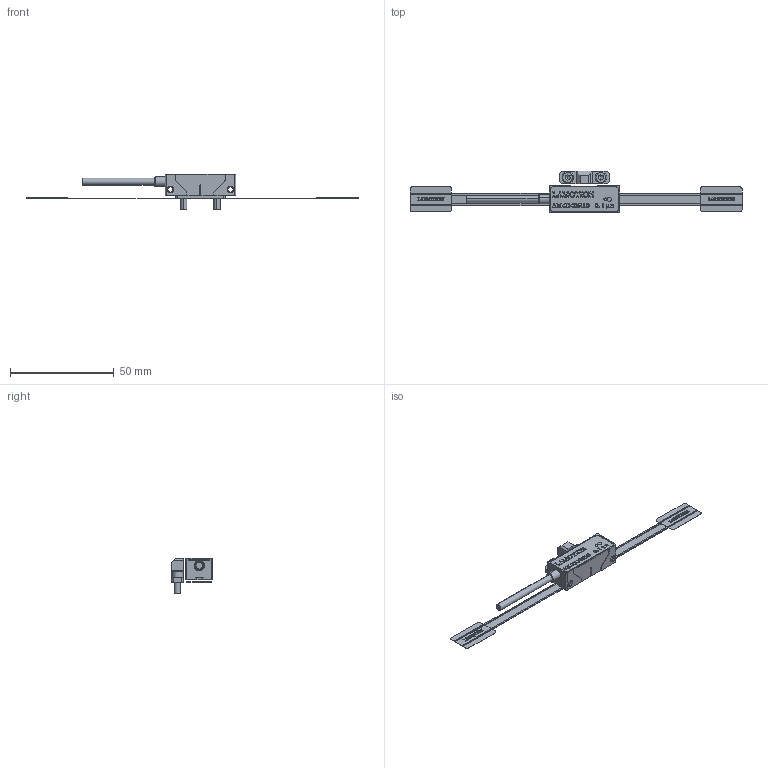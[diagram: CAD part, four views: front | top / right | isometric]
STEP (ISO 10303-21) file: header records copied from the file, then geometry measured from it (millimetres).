
FILE_DESCRIPTION (( 'STEP AP203' ), '1' );
FILE_NAME ('AM4莉こ假蚾尨砩芞.STEP', '2024-08-28T06:20:02', ( '' ), ( '' ), 'SwSTEP 2.0', 'SolidWorks 2024', '' );
FILE_SCHEMA (( 'CONFIG_CONTROL_DESIGN' ));
Length unit declared in the file: millimetre
Products named in the file (18): LM015-012-01 限位体; slotted set screws with cone point gb_GB_FASTENER_SCREWS_NCB M2X3-N; 端压片 平 H2-2; LM005-012-01 盖板; AM4-W; 端压片W; 限位磁体; 端压片 平 H2-3; AM4产品安装示意图; LM015-001-05 壳体; 强磁条; hexagon socket head cap screws gb_GB_FASTENER_SCREWS_HSHCS M3X8-N; 6mm栅尺; SE40  玻璃片; AM4-4  贴膜; H2 端压片-1; 导光柱1.5; 铝环带线
Assembly tree (20 placements, depth 3):
  AM4产品安装示意图
    6mm栅尺
    限位磁体
      LM015-012-01 限位体
      强磁条
    AM4-W
      LM015-001-05 壳体
      铝环带线
      SE40  玻璃片
      LM005-012-01 盖板
      slotted set screws with cone point gb_GB_FASTENER_SCREWS_NCB M2X3-N
      AM4-4  贴膜
      导光柱1.5
    端压片W  x2
      H2 端压片-1
      端压片 平 H2-2
      端压片 平 H2-3
    hexagon socket head cap screws gb_GB_FASTENER_SCREWS_HSHCS M3X8-N  x2
Bounding box: 160 x 20 x 17 mm (x, y, z)
Volume: 3581.1 mm3; surface area: 8821.3 mm2
Topology: 34 solids, 34 shells, 1147 faces, 3044 edges, 1998 vertices
Faces by surface type: plane 728, bspline 217, cylinder 156, cone 34, sphere 8, torus 4
Entity records: 39361 total; most frequent: CARTESIAN_POINT 15374, ORIENTED_EDGE 4874, DIRECTION 3949, EDGE_CURVE 2437, LINE 1761, VECTOR 1761, VERTEX_POINT 1607, AXIS2_PLACEMENT_3D 1094
